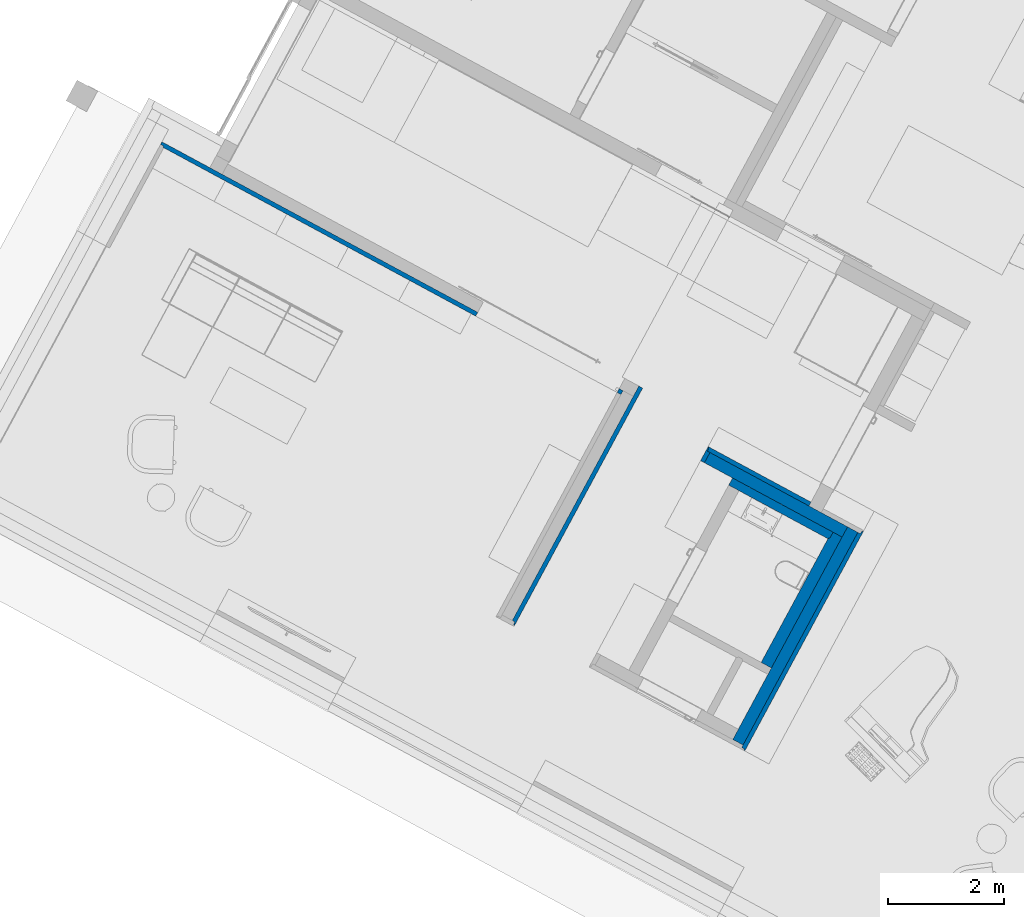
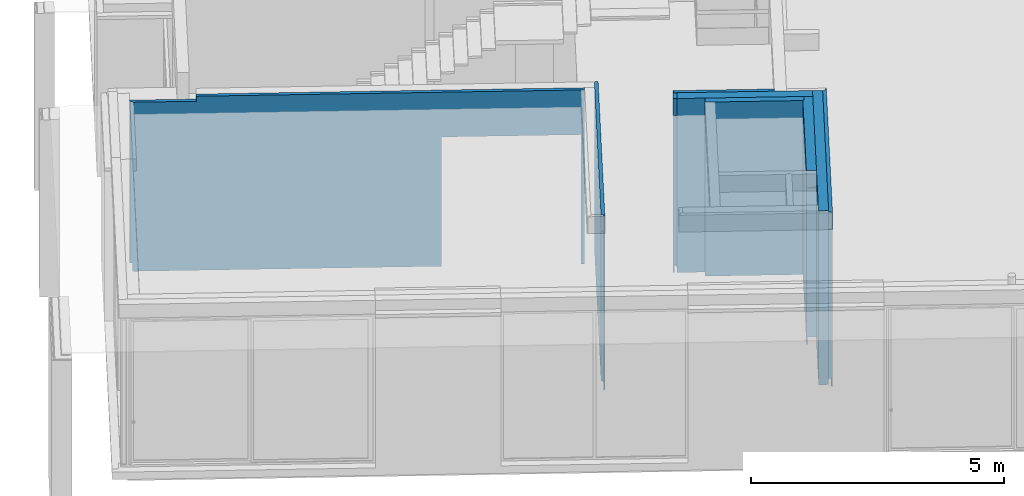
# One storey, part 6 of 52: 9 walls, 1 opening.
"""IFC2X3 building model written with IfcOpenShell, lengths in metres."""

from ifc_helpers import new_model, entity, si_unit, converted_unit, derived_unit, money_unit, direction, frame, origin_with_axes, origin_2d_with_axis, place, context, subcontext, project, spatial, rectangle, extrude, faceted_brep, material, material_list, type_object, element, save


model = new_model("IFC2X3")

# Units and contexts
model_context = context("Model", 3, precision=1e-05, world=origin_with_axes(), true_north=direction((0.0, 1.0)))
body_context = subcontext(model_context, "Body", "Model", "MODEL_VIEW")
ifc_project = project(units=[si_unit("LENGTHUNIT", "METRE"), si_unit("AREAUNIT", "SQUARE_METRE"), si_unit("VOLUMEUNIT", "CUBIC_METRE"), converted_unit("PLANEANGLEUNIT", "DEGREE", entity("IfcPlaneAngleMeasure", 0.0174532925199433), si_unit("PLANEANGLEUNIT", "RADIAN"), dimensions=[0, 0, 0, 0, 0, 0, 0]), money_unit("EUR"), converted_unit("TIMEUNIT", "Year", entity("IfcTimeMeasure", 31556926.0), si_unit("TIMEUNIT", "SECOND"), dimensions=[0, 0, 1, 0, 0, 0, 0]), si_unit("MASSUNIT", "GRAM", prefix="KILO"), si_unit("THERMODYNAMICTEMPERATUREUNIT", "DEGREE_CELSIUS"), si_unit("LUMINOUSINTENSITYUNIT", "LUMEN"), si_unit("ENERGYUNIT", "JOULE", prefix="MEGA"), derived_unit("THERMALCONDUCTANCEUNIT", [(si_unit("POWERUNIT", "WATT"), 1), (si_unit("LENGTHUNIT", "METRE"), -1), (si_unit("THERMODYNAMICTEMPERATUREUNIT", "KELVIN"), -1)]), derived_unit("SPECIFICHEATCAPACITYUNIT", [(si_unit("ENERGYUNIT", "JOULE"), 1), (si_unit("MASSUNIT", "GRAM", prefix="KILO"), -1), (si_unit("THERMODYNAMICTEMPERATUREUNIT", "KELVIN"), -1)]), derived_unit("MASSDENSITYUNIT", [(si_unit("MASSUNIT", "GRAM", prefix="KILO"), 1), (si_unit("VOLUMEUNIT", "CUBIC_METRE"), -1)])], contexts=[model_context])

# Site, building, storey
site_placement = place(None, frame((-3.949935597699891, 1.740105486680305, 0.0), z_axis=(0.0, 0.0, 1.0), x_axis=(0.8799804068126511, -0.475009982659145, 0.0)))
site = spatial("IfcSite", under=ifc_project, at=site_placement, Name="Gelände", CompositionType="ELEMENT")
building_placement = place(site_placement, origin_with_axes())
building = spatial("IfcBuilding", under=site, at=building_placement, Name="Gebäude", CompositionType="ELEMENT")
storey_placement = place(building_placement, origin_with_axes())
storey = spatial("IfcBuildingStorey", under=building, at=storey_placement, Name="Erdgeschoss", CompositionType="ELEMENT", Elevation=0.0)

# Wall
ifc_material_1 = material(Name="_SIWH - Installationswand, raumhoch")
ifc_material_2 = material(Name="_SIWH - Gipskarton")
ifc_material_list_1 = material_list([ifc_material_1, ifc_material_2, ifc_material_2])
wall_type_1 = type_object("IfcWallType", Name="_SIWH - WI | Vorsatz-GK 2-lagig | 14cm 140", PredefinedType="NOTDEFINED")
wall_1_placement = place(storey_placement, frame((15.78549142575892, 6.58787196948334, -0.3), z_axis=(0.0, 0.0, 1.0), x_axis=(0.9999999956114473, 9.368620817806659e-05, 0.0)))
element("IfcWall", 1, at=wall_1_placement, inside=storey, type_object=wall_type_1, material=ifc_material_list_1, Name="L-Wand024", context=body_context, shape_type="Brep", body=[
    faceted_brep([(0.0, 0.1400000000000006, 3.900000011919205), (1.961022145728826, 0.1400000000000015, 3.900000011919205), (1.961022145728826, 0.1400000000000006, 0.3), (0.0, 0.1399999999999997, 0.3), (1.961011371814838, 0.02500000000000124, 3.900000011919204), (0.0, 0.02500000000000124, 3.900000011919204), (1.961011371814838, 0.02500000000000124, 0.3), (0.0, 0.02500000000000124, 0.3)], [[[0, 1, 2, 3]], [[4, 1, 0, 5]], [[1, 4, 6, 2]], [[3, 2, 6, 7]], [[5, 0, 3, 7]], [[4, 5, 7, 6]]]),
    faceted_brep([(0.0, 0.1400000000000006, 4.320000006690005), (1.961022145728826, 0.1400000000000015, 4.320000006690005), (1.961022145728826, 0.1400000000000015, 3.915000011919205), (0.0, 0.1400000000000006, 3.915000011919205), (1.961011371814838, 0.02500000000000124, 4.320000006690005), (0.0, 0.02500000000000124, 4.320000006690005), (1.961011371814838, 0.02500000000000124, 3.915000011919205), (0.0, 0.02500000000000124, 3.915000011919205)], [[[0, 1, 2, 3]], [[4, 1, 0, 5]], [[1, 4, 6, 2]], [[3, 2, 6, 7]], [[5, 0, 3, 7]], [[4, 5, 7, 6]]]),
    faceted_brep([(1.948510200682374, 0.01250000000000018, 0.1199999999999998), (1.948511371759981, 0.02500000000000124, 0.1199999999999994), (1.948511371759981, 0.02500000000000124, 4.320000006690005), (1.948510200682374, 0.01250000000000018, 4.320000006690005), (0.0, 0.02500000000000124, 0.1199999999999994), (0.0, 0.01250000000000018, 0.1199999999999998), (0.0, 0.02500000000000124, 4.320000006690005), (0.0, 0.01250000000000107, 4.320000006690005)], [[[0, 1, 2, 3]], [[4, 1, 0, 5]], [[1, 4, 6, 2]], [[3, 2, 6, 7]], [[5, 0, 3, 7]], [[4, 5, 7, 6]]]),
    faceted_brep([(1.936009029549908, 0.0, 0.1199999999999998), (1.936010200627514, 0.01250000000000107, 0.1199999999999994), (1.936010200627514, 0.01250000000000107, 4.320000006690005), (1.936009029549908, 0.0, 4.320000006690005), (0.0, 0.01250000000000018, 0.1199999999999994), (0.0, 0.0, 0.1199999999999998), (0.0, 0.01250000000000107, 4.320000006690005), (0.0, 0.0, 4.320000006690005)], [[[0, 1, 2, 3]], [[4, 1, 0, 5]], [[1, 4, 6, 2]], [[3, 2, 6, 7]], [[5, 0, 3, 7]], [[4, 5, 7, 6]]]),
])

# Wall, opening
ifc_material_list_2 = material_list([ifc_material_2, ifc_material_2, ifc_material_1])
wall_type_2 = type_object("IfcWallType", Name="_SIWH - WI | Vorsatz-GK 2-lagig | 7,5cm  75", PredefinedType="NOTDEFINED")
wall_2_placement = place(storey_placement, frame((13.41918401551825, 7.153034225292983, -0.1800000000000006), z_axis=(0.0, 0.0, 1.0), x_axis=(-1.0, 0.0, 0.0)))
wall_2 = element("IfcWall", 2, at=wall_2_placement, inside=storey, type_object=wall_type_2, material=ifc_material_list_2, Name="L-Wand002", context=body_context, shape_type="Brep", body=[
    faceted_brep([(2.835000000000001, 0.0625, 3.120000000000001), (2.835000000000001, 0.06250000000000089, 0.1800000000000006), (2.835000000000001, 0.06249999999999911, 0.0), (8.9341550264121, 0.06249999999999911, 0.0), (8.9341550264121, 0.0625, 4.080000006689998), (7.681703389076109, 0.0625, 4.080000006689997), (7.681703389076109, 0.0625, 4.200000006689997), (0.0, 0.0625, 4.200000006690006), (0.0, 0.0625, 0.0), (0.07499999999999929, 0.06249999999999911, 0.0), (0.07499999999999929, 0.06250000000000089, 0.1800000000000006), (0.07499999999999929, 0.0625, 3.120000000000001), (2.835000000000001, 0.07499999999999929, 3.120000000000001), (2.835000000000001, 0.07500000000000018, 0.1800000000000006), (2.835000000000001, 0.07500000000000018, 0.0), (8.9341550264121, 0.07499999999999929, 0.0), (8.9341550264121, 0.07499999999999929, 4.080000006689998), (7.681703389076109, 0.07499999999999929, 4.080000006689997), (7.681703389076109, 0.07499999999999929, 4.200000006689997), (0.0, 0.07500000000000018, 4.200000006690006), (0.0, 0.07500000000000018, 0.0), (0.07499999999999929, 0.07500000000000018, 0.0), (0.07499999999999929, 0.07500000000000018, 0.1800000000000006), (0.07499999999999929, 0.07499999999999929, 3.120000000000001)], [[[0, 1, 2, 3, 4, 5, 6, 7, 8, 9, 10, 11]], [[1, 0, 12, 13]], [[1, 13, 14, 2]], [[14, 15, 3, 2]], [[4, 3, 15, 16]], [[5, 4, 16, 17]], [[6, 5, 17, 18]], [[18, 19, 7, 6]], [[8, 7, 19, 20]], [[9, 8, 20, 21]], [[22, 10, 9, 21]], [[11, 10, 22, 23]], [[0, 11, 23, 12]], [[23, 22, 21, 20, 19, 18, 17, 16, 15, 14, 13, 12]]]),
    faceted_brep([(2.835000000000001, 0.04999999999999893, 3.120000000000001), (2.835000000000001, 0.04999999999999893, 0.1800000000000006), (2.835000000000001, 0.04999999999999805, 0.0), (8.946655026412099, 0.04999999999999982, 0.0), (8.946655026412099, 0.04999999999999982, 4.080000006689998), (7.681703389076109, 0.04999999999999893, 4.080000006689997), (7.681703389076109, 0.04999999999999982, 4.200000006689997), (0.0, 0.04999999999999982, 4.200000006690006), (0.0, 0.04999999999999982, 0.0), (0.07499999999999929, 0.04999999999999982, 0.0), (0.07499999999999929, 0.04999999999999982, 0.1800000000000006), (0.07499999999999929, 0.04999999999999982, 3.120000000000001), (2.835000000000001, 0.0625, 3.120000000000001), (2.835000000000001, 0.06250000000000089, 0.1800000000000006), (2.835000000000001, 0.06249999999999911, 0.0), (8.946655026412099, 0.06249999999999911, 0.0), (8.946655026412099, 0.0625, 4.080000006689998), (7.681703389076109, 0.0625, 4.080000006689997), (7.681703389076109, 0.0625, 4.200000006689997), (0.0, 0.0625, 4.200000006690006), (0.0, 0.0625, 0.0), (0.07499999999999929, 0.0625, 0.0), (0.07499999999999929, 0.06250000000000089, 0.1800000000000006), (0.07499999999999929, 0.0625, 3.120000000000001)], [[[0, 1, 2, 3, 4, 5, 6, 7, 8, 9, 10, 11]], [[1, 0, 12, 13]], [[1, 13, 14, 2]], [[14, 15, 3, 2]], [[4, 3, 15, 16]], [[5, 4, 16, 17]], [[6, 5, 17, 18]], [[18, 19, 7, 6]], [[8, 7, 19, 20]], [[9, 8, 20, 21]], [[22, 10, 9, 21]], [[11, 10, 22, 23]], [[0, 11, 23, 12]], [[23, 22, 21, 20, 19, 18, 17, 16, 15, 14, 13, 12]]]),
    faceted_brep([(2.835000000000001, -8.496190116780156e-06, 3.120000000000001), (2.835000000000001, -5.818959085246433e-06, 0.1800000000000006), (8.9966550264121, -2.028093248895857e-10, 0.1800000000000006), (8.9966550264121, -2.02808436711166e-10, 4.080000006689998), (7.681703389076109, -8.496190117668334e-06, 4.080000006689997), (7.681703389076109, -1.241976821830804e-06, 4.200000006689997), (0.0, -8.496190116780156e-06, 4.200000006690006), (0.0, -8.496190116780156e-06, 3.795000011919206), (0.1241663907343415, -8.496190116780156e-06, 3.795000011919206), (0.1241663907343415, -8.496190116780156e-06, 3.780000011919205), (0.0, -8.496190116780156e-06, 3.780000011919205), (0.0, -8.496190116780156e-06, 0.1800000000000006), (0.07499999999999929, -8.425363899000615e-06, 0.1800000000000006), (0.07499999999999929, -8.496190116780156e-06, 3.120000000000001), (2.835000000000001, 0.04999999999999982, 3.120000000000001), (2.835000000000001, 0.04999999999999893, 0.1800000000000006), (8.9966550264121, 0.04999999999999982, 0.1800000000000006), (8.9966550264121, 0.04999999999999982, 4.080000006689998), (7.681703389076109, 0.04999999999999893, 4.080000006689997), (7.681703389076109, 0.04999999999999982, 4.200000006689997), (0.0, 0.04999999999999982, 4.200000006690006), (0.0, 0.04999999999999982, 3.795000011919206), (0.1241662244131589, 0.04999999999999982, 3.795000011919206), (0.1241663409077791, 0.01497306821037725, 3.795000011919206), (0.1241663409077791, 0.01497306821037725, 3.780000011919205), (0.1241662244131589, 0.04999999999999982, 3.780000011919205), (0.0, 0.04999999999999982, 3.780000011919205), (0.0, 0.04999999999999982, 0.1800000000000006), (0.07499999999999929, 0.04999999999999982, 0.1800000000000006), (0.07499999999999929, 0.04999999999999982, 3.120000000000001)], [[[0, 1, 2, 3, 4, 5, 6, 7, 8, 9, 10, 11, 12, 13]], [[1, 0, 14, 15]], [[1, 15, 16, 2]], [[3, 2, 16, 17]], [[4, 3, 17, 18]], [[5, 4, 18, 19]], [[19, 20, 6, 5]], [[7, 6, 20, 21]], [[21, 22, 23, 8, 7]], [[8, 23, 24, 9]], [[9, 24, 25, 26, 10]], [[26, 27, 11, 10]], [[28, 12, 11, 27]], [[13, 12, 28, 29]], [[0, 13, 29, 14]], [[29, 28, 27, 26, 25, 22, 21, 20, 19, 18, 17, 16, 15, 14]], [[25, 24, 23, 22]]]),
])
opening_placement = place(wall_2_placement, frame((1.455000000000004, 0.0, 0.1800000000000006), z_axis=(0.0, 0.0, 1.0), x_axis=(1.0, 0.0, 0.0)))
element("IfcOpeningElement", 3, at=opening_placement, cuts=wall_2, Name="Tür-026", context=body_context, shape_type="SweptSolid", body=[
    extrude(rectangle(XDim=2.760000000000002, YDim=2.94, at=origin_2d_with_axis()), frame((0.0, 0.04999999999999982, 1.47), z_axis=(0.0, -1.0, 0.0), x_axis=(1.0, 0.0, 0.0)), (0.0, 0.0, 1.0), 0.125),
    extrude(rectangle(XDim=2.760000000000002, YDim=2.94, at=origin_2d_with_axis()), frame((0.0, 0.04999999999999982, 1.47), z_axis=(0.0, 1.0, 0.0), x_axis=(1.0, 0.0, 0.0)), (0.0, 0.0, 1.0), 0.1),
])

# Walls
wall_3_placement = place(storey_placement, frame((15.16082818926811, 7.003053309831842, -0.1800000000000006), z_axis=(0.0, 0.0, 1.0), x_axis=(0.0, -1.0, 0.0)))
element("IfcWall", 4, at=wall_3_placement, inside=storey, type_object=wall_type_2, material=ifc_material_list_1, Name="L-Wand005", context=body_context, shape_type="Brep", body=[
    faceted_brep([(0.07500000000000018, 0.02500000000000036, 3.780000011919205), (0.07500000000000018, 0.07500000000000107, 3.780000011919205), (0.07500000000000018, 0.07499999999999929, 0.1800000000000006), (0.07500000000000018, 0.02500000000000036, 0.1800000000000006), (0.2750000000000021, 0.07500000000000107, 3.780000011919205), (0.2750000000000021, 0.02500000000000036, 3.780000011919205), (0.2750000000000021, 0.07499999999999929, 0.1800000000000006), (0.2750000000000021, 0.02500000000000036, 0.1800000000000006)], [[[0, 1, 2, 3]], [[4, 1, 0, 5]], [[1, 4, 6, 2]], [[3, 2, 6, 7]], [[5, 0, 3, 7]], [[4, 5, 7, 6]]]),
    faceted_brep([(0.2750000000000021, 0.07500000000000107, 3.795000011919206), (0.07500000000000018, 0.07500000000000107, 3.795000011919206), (0.07500000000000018, 0.07500000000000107, 4.200000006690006), (0.2750000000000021, 0.07500000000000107, 4.200000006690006), (0.07500000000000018, 0.02500000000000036, 3.795000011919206), (0.2750000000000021, 0.02500000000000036, 3.795000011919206), (0.07500000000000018, 0.02500000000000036, 4.200000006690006), (0.2750000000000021, 0.02500000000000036, 4.200000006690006)], [[[0, 1, 2, 3]], [[4, 1, 0, 5]], [[1, 4, 6, 2]], [[6, 7, 3, 2]], [[5, 0, 3, 7]], [[4, 5, 7, 6]]]),
    faceted_brep([(0.2750000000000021, 0.02500000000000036, 0.0), (0.2750000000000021, 0.01249999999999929, 0.0), (0.02500000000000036, 0.01249999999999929, 0.0), (0.02500000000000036, 0.02500000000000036, 0.0), (0.2750000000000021, 0.02500000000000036, 4.200000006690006), (0.2750000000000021, 0.01250000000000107, 4.200000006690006), (0.02500000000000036, 0.01250000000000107, 4.200000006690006), (0.02500000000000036, 0.02500000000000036, 4.200000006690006)], [[[0, 1, 2, 3]], [[0, 4, 5, 1]], [[1, 5, 6, 2]], [[3, 2, 6, 7]], [[4, 0, 3, 7]], [[5, 4, 7, 6]]]),
    faceted_brep([(0.2750000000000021, 0.01249999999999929, 0.0), (0.2750000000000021, 0.0, 0.0), (0.01250000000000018, 0.0, 0.0), (0.01250000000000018, 0.01249999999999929, 0.0), (0.2750000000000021, 0.01250000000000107, 4.200000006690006), (0.2750000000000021, 0.0, 4.200000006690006), (0.01250000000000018, 0.0, 4.200000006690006), (0.01250000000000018, 0.01250000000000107, 4.200000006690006)], [[[0, 1, 2, 3]], [[0, 4, 5, 1]], [[1, 5, 6, 2]], [[3, 2, 6, 7]], [[4, 0, 3, 7]], [[5, 4, 7, 6]]]),
])
wall_4_placement = place(storey_placement, frame((18.19650044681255, 2.703482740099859, -0.1800000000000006), z_axis=(0.0, 0.0, 1.0), x_axis=(0.0, 1.0, 0.0)))
element("IfcWall", 5, at=wall_4_placement, inside=storey, type_object=wall_type_2, material=ifc_material_list_1, Name="L-Wand007", context=body_context, shape_type="Brep", body=[
    faceted_brep([(4.224570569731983, 0.07499999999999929, 3.780000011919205), (4.224570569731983, 0.02499999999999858, 3.780000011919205), (4.224570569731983, 0.02499999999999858, 0.1800000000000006), (4.224570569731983, 0.07499999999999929, 0.1800000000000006), (0.02499999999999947, 0.02499999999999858, 3.780000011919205), (0.02499999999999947, 0.07499999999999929, 3.780000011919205), (0.02499999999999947, 0.02499999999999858, 0.1800000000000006), (0.02499999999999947, 0.07499999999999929, 0.1800000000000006)], [[[0, 1, 2, 3]], [[4, 1, 0, 5]], [[1, 4, 6, 2]], [[3, 2, 6, 7]], [[5, 0, 3, 7]], [[4, 5, 7, 6]]]),
    faceted_brep([(0.02499999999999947, 0.02499999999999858, 3.795000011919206), (4.224570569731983, 0.02499999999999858, 3.795000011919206), (4.224570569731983, 0.02499999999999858, 4.200000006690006), (0.02499999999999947, 0.02499999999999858, 4.200000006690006), (4.224570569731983, 0.07499999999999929, 3.795000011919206), (0.02499999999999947, 0.07499999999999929, 3.795000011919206), (4.224570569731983, 0.07499999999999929, 4.200000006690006), (0.02499999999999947, 0.07499999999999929, 4.200000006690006)], [[[0, 1, 2, 3]], [[4, 1, 0, 5]], [[1, 4, 6, 2]], [[2, 6, 7, 3]], [[5, 0, 3, 7]], [[4, 5, 7, 6]]]),
    faceted_brep([(4.274570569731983, 0.01249999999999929, 0.0), (0.01250000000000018, 0.01249999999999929, 0.0), (0.01250000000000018, 0.02499999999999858, 0.0), (4.274570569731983, 0.02499999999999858, 0.0), (4.274570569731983, 0.01249999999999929, 4.200000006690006), (0.01250000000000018, 0.01249999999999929, 4.200000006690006), (0.01250000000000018, 0.02499999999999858, 4.200000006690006), (4.274570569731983, 0.02499999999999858, 4.200000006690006)], [[[0, 1, 2, 3]], [[4, 5, 1, 0]], [[2, 1, 5, 6]], [[3, 2, 6, 7]], [[3, 7, 4, 0]], [[7, 6, 5, 4]]]),
    faceted_brep([(4.287070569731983, 0.0, 0.0), (0.0, 0.0, 0.0), (0.0, 0.01249999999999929, 0.0), (4.287070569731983, 0.01249999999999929, 0.0), (4.287070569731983, 0.0, 4.200000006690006), (0.0, 0.0, 4.200000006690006), (0.0, 0.01249999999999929, 4.200000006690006), (4.287070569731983, 0.01249999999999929, 4.200000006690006)], [[[0, 1, 2, 3]], [[4, 5, 1, 0]], [[2, 1, 5, 6]], [[3, 2, 6, 7]], [[3, 7, 4, 0]], [[7, 6, 5, 4]]]),
])
wall_5_placement = place(storey_placement, frame((17.16748824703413, 7.003053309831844, -0.1800000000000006), z_axis=(0.0, 0.0, 1.0), x_axis=(-1.0, 0.0, 0.0)))
element("IfcWall", 6, at=wall_5_placement, inside=storey, type_object=wall_type_2, material=ifc_material_list_1, Name="L-Wand004", context=body_context, shape_type="Brep", body=[
    faceted_brep([(1.981660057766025, 0.02499999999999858, 3.780000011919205), (0.0, 0.02500000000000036, 3.780000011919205), (0.0, 0.02500000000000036, 0.1800000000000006), (1.981660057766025, 0.02499999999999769, 0.1800000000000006), (0.0, 0.07500000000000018, 3.780000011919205), (1.981660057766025, 0.0749999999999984, 3.780000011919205), (0.0, 0.07500000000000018, 0.1800000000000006), (1.981660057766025, 0.0749999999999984, 0.1800000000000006)], [[[0, 1, 2, 3]], [[4, 1, 0, 5]], [[1, 4, 6, 2]], [[3, 2, 6, 7]], [[5, 0, 3, 7]], [[4, 5, 7, 6]]]),
    faceted_brep([(0.0, 0.07500000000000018, 3.795000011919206), (0.0, 0.02500000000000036, 3.795000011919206), (0.0, 0.02500000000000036, 4.200000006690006), (0.0, 0.07500000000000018, 4.200000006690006), (1.981660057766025, 0.02499999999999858, 3.795000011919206), (1.981660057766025, 0.0749999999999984, 3.795000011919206), (1.981660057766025, 0.02499999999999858, 4.200000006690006), (1.981660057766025, 0.0749999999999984, 4.200000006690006)], [[[0, 1, 2, 3]], [[4, 1, 0, 5]], [[1, 4, 6, 2]], [[6, 7, 3, 2]], [[5, 0, 3, 7]], [[4, 5, 7, 6]]]),
    faceted_brep([(1.994160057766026, 0.0124999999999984, 0.0), (0.0, 0.01250000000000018, 0.0), (0.0, 0.02500000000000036, 0.0), (1.994160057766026, 0.02499999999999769, 0.0), (1.994160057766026, 0.0124999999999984, 4.200000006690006), (0.0, 0.01250000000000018, 4.200000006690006), (0.0, 0.02500000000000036, 4.200000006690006), (1.994160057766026, 0.02499999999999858, 4.200000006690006)], [[[0, 1, 2, 3]], [[4, 5, 1, 0]], [[2, 1, 5, 6]], [[3, 2, 6, 7]], [[3, 7, 4, 0]], [[7, 6, 5, 4]]]),
    faceted_brep([(2.006660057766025, 0.0, 0.0), (0.0, 0.0, 0.0), (0.0, 0.01250000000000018, 0.0), (2.006660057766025, 0.0124999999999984, 0.0), (2.006660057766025, 0.0, 4.200000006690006), (0.0, 0.0, 4.200000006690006), (0.0, 0.01250000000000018, 4.200000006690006), (2.006660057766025, 0.0124999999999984, 4.200000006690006)], [[[0, 1, 2, 3]], [[4, 5, 1, 0]], [[2, 1, 5, 6]], [[3, 2, 6, 7]], [[3, 7, 4, 0]], [[7, 6, 5, 4]]]),
])
wall_6_placement = place(storey_placement, frame((13.61918401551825, 2.703482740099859, -0.1800000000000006), z_axis=(0.0, 0.0, 1.0), x_axis=(0.0, 1.0, 0.0)))
element("IfcWall", 7, at=wall_6_placement, inside=storey, type_object=wall_type_2, material=ifc_material_list_1, Name="L-Wand001", context=body_context, shape_type="Brep", body=[
    faceted_brep([(4.64956019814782, 0.0, 3.780000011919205), (4.64956019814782, -0.04999999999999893, 3.780000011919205), (4.64956019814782, -0.05000000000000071, 0.1800000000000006), (4.64956019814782, 0.0, 0.1800000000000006), (0.07500000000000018, -0.04999999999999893, 3.780000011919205), (0.07500000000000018, 0.0, 3.780000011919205), (0.07500000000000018, -0.05000000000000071, 0.1800000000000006), (0.07500000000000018, 0.0, 0.1800000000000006)], [[[0, 1, 2, 3]], [[4, 1, 0, 5]], [[1, 4, 6, 2]], [[3, 2, 6, 7]], [[5, 0, 3, 7]], [[4, 5, 7, 6]]]),
    faceted_brep([(0.07500000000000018, -0.04999999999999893, 3.795000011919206), (4.64956019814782, -0.04999999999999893, 3.795000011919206), (4.64956019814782, -0.04999999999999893, 4.200000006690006), (0.07500000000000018, -0.04999999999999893, 4.200000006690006), (4.64956019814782, 0.0, 3.795000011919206), (0.07500000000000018, 0.0, 3.795000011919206), (4.64956019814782, 0.0, 4.200000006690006), (0.07500000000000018, 0.0, 4.200000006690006)], [[[0, 1, 2, 3]], [[4, 1, 0, 5]], [[1, 4, 6, 2]], [[3, 2, 6, 7]], [[5, 0, 3, 7]], [[4, 5, 7, 6]]]),
    faceted_brep([(4.64956019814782, -0.05000000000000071, 0.0), (4.64956019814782, -0.0625, 0.0), (0.02499999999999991, -0.0625, 0.0), (0.02499999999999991, -0.05000000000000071, 0.0), (4.64956019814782, -0.04999999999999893, 4.200000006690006), (4.64956019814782, -0.0625, 4.200000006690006), (0.02499999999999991, -0.0625, 4.200000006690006), (0.02499999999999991, -0.04999999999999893, 4.200000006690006)], [[[0, 1, 2, 3]], [[0, 4, 5, 1]], [[1, 5, 6, 2]], [[3, 2, 6, 7]], [[4, 0, 3, 7]], [[5, 4, 7, 6]]]),
    faceted_brep([(4.64956019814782, -0.0625, 0.0), (4.64956019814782, -0.07499999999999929, 0.0), (0.01250000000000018, -0.07499999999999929, 0.0), (0.01250000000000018, -0.0625, 0.0), (4.64956019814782, -0.0625, 4.200000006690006), (4.64956019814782, -0.07499999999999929, 4.200000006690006), (0.01250000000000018, -0.07499999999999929, 4.200000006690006), (0.01250000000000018, -0.0625, 4.200000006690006)], [[[0, 1, 2, 3]], [[0, 4, 5, 1]], [[1, 5, 6, 2]], [[3, 2, 6, 7]], [[4, 0, 3, 7]], [[5, 4, 7, 6]]]),
])
ifc_material_3 = material(Name="_SIWH - Beton, Stahlbeton")
wall_type_3 = type_object("IfcWallType", Name="_SIWH - WI | Stb. 20 | 20cm 200", PredefinedType="NOTDEFINED")
wall_7_placement = place(storey_placement, frame((17.92150044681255, 6.72805330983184, -0.18), z_axis=(0.0, 0.0, 1.0), x_axis=(0.0, -1.0, 0.0)))
element("IfcWall", 8, at=wall_7_placement, inside=storey, type_object=wall_type_3, material=ifc_material_3, Name="I-Wand007", context=body_context, shape_type="Brep", body=[
    faceted_brep([(3.949570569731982, 0.1999999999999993, 0.0), (3.949570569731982, 0.0, 0.0), (-0.2000000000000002, 0.0, 0.0), (-0.2000000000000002, 0.1999999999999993, 0.0), (3.949570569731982, 0.1999999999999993, 4.200000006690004), (3.949570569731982, 0.0, 4.200000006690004), (-0.2000000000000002, 0.0, 4.200000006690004), (-0.2000000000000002, 0.1999999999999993, 4.200000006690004)], [[[0, 1, 2, 3]], [[1, 0, 4, 5]], [[1, 5, 6, 2]], [[7, 3, 2, 6]], [[4, 0, 3, 7]], [[5, 4, 7, 6]]]),
])
wall_8_placement = place(storey_placement, frame((15.2358281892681, 6.72805330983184, -0.18), z_axis=(0.0, 0.0, 1.0), x_axis=(1.0, 0.0, 0.0)))
element("IfcWall", 9, at=wall_8_placement, inside=storey, type_object=wall_type_3, material=ifc_material_3, Name="I-Wand009", context=body_context, shape_type="Brep", body=[
    faceted_brep([(2.68567225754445, 0.2000000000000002, 0.0), (2.68567225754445, 0.0, 0.0), (0.0, 0.0, 0.0), (0.0, 0.2000000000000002, 0.0), (2.68567225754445, 0.2000000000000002, 4.200000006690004), (2.68567225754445, 0.0, 4.200000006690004), (0.0, 0.0, 4.200000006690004), (0.0, 0.2000000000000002, 4.200000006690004)], [[[0, 1, 2, 3]], [[1, 0, 4, 5]], [[1, 5, 6, 2]], [[7, 3, 2, 6]], [[4, 0, 3, 7]], [[5, 4, 7, 6]]]),
])
wall_type_4 = type_object("IfcWallType", Name="_SIWH - WI | Vorsatz-GK 2-lagig | 20cm 200", PredefinedType="NOTDEFINED")
wall_9_placement = place(storey_placement, frame((17.72150044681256, 6.588053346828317, -0.3), z_axis=(0.0, 0.0, 1.0), x_axis=(0.0, -1.0, 0.0)))
element("IfcWall", 10, at=wall_9_placement, inside=storey, type_object=wall_type_4, material=ifc_material_list_1, Name="L-Wand028", context=body_context, shape_type="Brep", body=[
    faceted_brep([(-0.1400023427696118, 0.02499999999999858, 3.900000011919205), (-0.1400187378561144, 0.1999999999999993, 3.900000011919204), (-0.1400187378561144, 0.1999999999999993, 0.3), (-0.1400023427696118, 0.02499999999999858, 0.3), (2.414300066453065, 0.1999999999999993, 3.900000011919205), (2.414300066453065, 0.02499999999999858, 3.900000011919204), (2.414300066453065, 0.1999999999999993, 0.3), (2.414300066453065, 0.02499999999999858, 0.3)], [[[0, 1, 2, 3]], [[4, 1, 0, 5]], [[1, 4, 6, 2]], [[3, 2, 6, 7]], [[5, 0, 3, 7]], [[4, 5, 7, 6]]]),
    faceted_brep([(-0.1400023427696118, 0.02499999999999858, 4.320000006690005), (-0.1400187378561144, 0.1999999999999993, 4.320000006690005), (-0.1400187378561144, 0.1999999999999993, 3.915000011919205), (-0.1400023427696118, 0.02499999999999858, 3.915000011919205), (2.414300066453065, 0.1999999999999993, 4.320000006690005), (2.414300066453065, 0.02499999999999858, 4.320000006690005), (2.414300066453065, 0.1999999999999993, 3.915000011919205), (2.414300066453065, 0.02499999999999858, 3.915000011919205)], [[[0, 1, 2, 3]], [[4, 1, 0, 5]], [[1, 4, 6, 2]], [[3, 2, 6, 7]], [[5, 0, 3, 7]], [[4, 5, 7, 6]]]),
    faceted_brep([(2.414300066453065, 0.02499999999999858, 0.1199999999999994), (-0.02500234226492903, 0.02499999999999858, 0.1199999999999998), (-0.02500234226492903, 0.02499999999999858, 4.320000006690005), (2.414300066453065, 0.02499999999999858, 4.320000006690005), (-0.0250011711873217, 0.01249999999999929, 0.1199999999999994), (2.414300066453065, 0.01249999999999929, 0.1199999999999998), (-0.0250011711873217, 0.01249999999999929, 4.320000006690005), (2.414300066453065, 0.01249999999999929, 4.320000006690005)], [[[0, 1, 2, 3]], [[4, 1, 0, 5]], [[1, 4, 6, 2]], [[3, 2, 6, 7]], [[5, 0, 3, 7]], [[4, 5, 7, 6]]]),
    faceted_brep([(2.414300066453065, 0.01249999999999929, 0.1199999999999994), (-0.01250117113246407, 0.01249999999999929, 0.1199999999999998), (-0.01250117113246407, 0.01249999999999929, 4.320000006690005), (2.414300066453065, 0.01249999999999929, 4.320000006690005), (-0.01250000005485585, 0.0, 0.1199999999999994), (2.414300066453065, 0.0, 0.1199999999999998), (-0.01250000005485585, 0.0, 4.320000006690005), (2.414300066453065, 0.0, 4.320000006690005)], [[[0, 1, 2, 3]], [[4, 1, 0, 5]], [[1, 4, 6, 2]], [[3, 2, 6, 7]], [[5, 0, 3, 7]], [[4, 5, 7, 6]]]),
])

save(model, "model.ifc")
